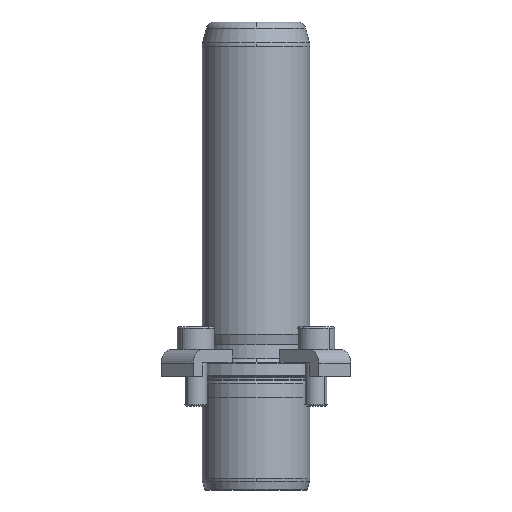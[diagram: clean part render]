
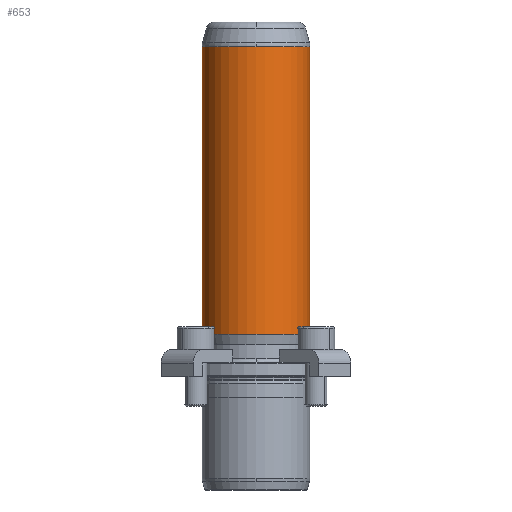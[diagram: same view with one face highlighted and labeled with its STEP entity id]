
A CAD part, front view. The second image highlights one B-rep face of the part: STEP entity #653.
In plain terms, the highlighted cylindrical face has radius 19 mm (diameter 38 mm), a partial arc.
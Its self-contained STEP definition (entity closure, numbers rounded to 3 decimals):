
#566=CARTESIAN_POINT('',(0.0,-19.,116.342));
#567=VERTEX_POINT('',#566);
#594=CARTESIAN_POINT('',(-19.0,0.,116.342));
#595=VERTEX_POINT('',#594);
#603=CARTESIAN_POINT('',(0.0,0.,116.342));
#604=DIRECTION('',(0.0,0.0,1.0));
#605=DIRECTION('',(1.0,0.0,0.0));
#606=AXIS2_PLACEMENT_3D('',#603,#604,#605);
#607=CIRCLE('',#606,19.);
#608=EDGE_CURVE('',#595,#567,#607,.T.);
#613=CARTESIAN_POINT('',(0.0,0.,65.671));
#614=DIRECTION('',(0.0,0.,1.0));
#615=DIRECTION('',(1.0,0.0,0.0));
#616=AXIS2_PLACEMENT_3D('',#613,#614,#615);
#617=CYLINDRICAL_SURFACE('',#616,19.0);
#618=CARTESIAN_POINT('',(19.,0.,116.342));
#619=VERTEX_POINT('',#618);
#620=CARTESIAN_POINT('',(19.0,0.,15.0));
#621=VERTEX_POINT('',#620);
#622=CARTESIAN_POINT('',(19.,0.,116.342));
#623=DIRECTION('',(0.0,0.0,-1.0));
#624=VECTOR('',#623,101.342);
#625=LINE('',#622,#624);
#626=EDGE_CURVE('',#619,#621,#625,.T.);
#627=ORIENTED_EDGE('',*,*,#626,.F.);
#628=CARTESIAN_POINT('',(0.0,0.,116.342));
#629=DIRECTION('',(0.0,0.0,1.0));
#630=DIRECTION('',(1.0,0.0,0.0));
#631=AXIS2_PLACEMENT_3D('',#628,#629,#630);
#632=CIRCLE('',#631,19.);
#633=EDGE_CURVE('',#567,#619,#632,.T.);
#634=ORIENTED_EDGE('',*,*,#633,.F.);
#635=ORIENTED_EDGE('',*,*,#608,.F.);
#636=CARTESIAN_POINT('',(-19.0,0.,15.0));
#637=VERTEX_POINT('',#636);
#638=CARTESIAN_POINT('',(-19.0,0.,116.342));
#639=DIRECTION('',(0.0,0.0,-1.0));
#640=VECTOR('',#639,101.342);
#641=LINE('',#638,#640);
#642=EDGE_CURVE('',#595,#637,#641,.T.);
#643=ORIENTED_EDGE('',*,*,#642,.T.);
#644=CARTESIAN_POINT('',(0.0,0.,15.0));
#645=DIRECTION('',(0.0,0.0,1.0));
#646=DIRECTION('',(1.0,0.0,0.0));
#647=AXIS2_PLACEMENT_3D('',#644,#645,#646);
#648=CIRCLE('',#647,19.0);
#649=EDGE_CURVE('',#637,#621,#648,.T.);
#650=ORIENTED_EDGE('',*,*,#649,.T.);
#651=EDGE_LOOP('',(#627,#634,#635,#643,#650));
#652=FACE_OUTER_BOUND('',#651,.T.);
#653=ADVANCED_FACE('',(#652),#617,.T.);
